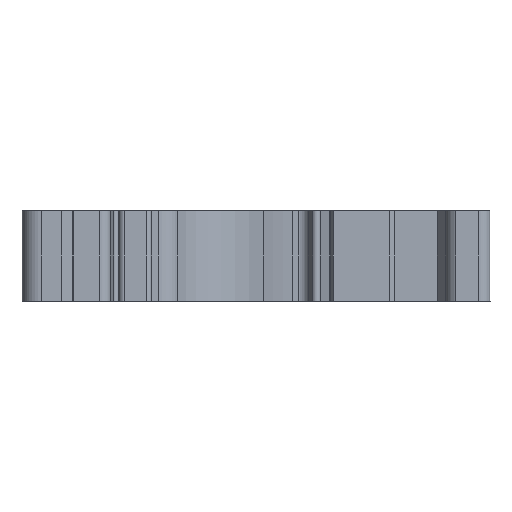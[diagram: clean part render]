
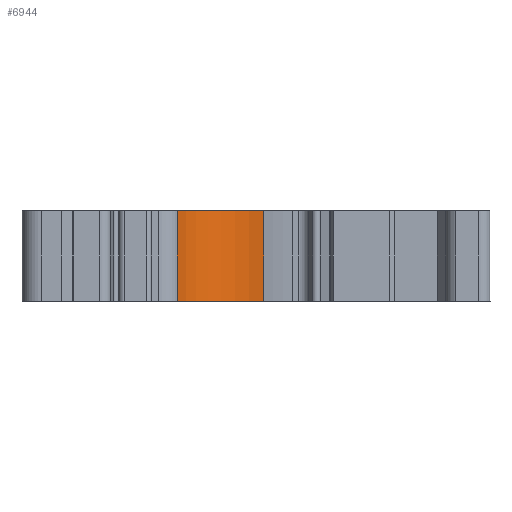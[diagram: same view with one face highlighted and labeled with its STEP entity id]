
A CAD part, front view. The second image highlights one B-rep face of the part: STEP entity #6944.
In plain terms, the highlighted cylindrical face has radius 7.697 mm (diameter 15.393 mm), a partial arc.
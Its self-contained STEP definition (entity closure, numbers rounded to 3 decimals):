
#601=CARTESIAN_POINT('',(-0.625,-24.347,-4.1));
#602=DIRECTION('',(0.,0.,-1.));
#603=DIRECTION('',(-0.851,0.526,0.));
#604=AXIS2_PLACEMENT_3D('',#601,#602,#603);
#1166=CARTESIAN_POINT('',(-0.625,-24.347,4.1));
#1167=DIRECTION('',(0.,0.,1.));
#1168=DIRECTION('',(0.174,0.985,0.));
#1169=AXIS2_PLACEMENT_3D('',#1166,#1167,#1168);
#2565=DIRECTION('',(0.,0.,1.));
#2566=VECTOR('',#2565,8.2);
#2567=CARTESIAN_POINT('',(-7.172,-20.301,-4.1));
#2568=LINE('',#2567,#2566);
#2569=DIRECTION('',(0.,0.,1.));
#2570=VECTOR('',#2569,8.2);
#2571=CARTESIAN_POINT('',(0.713,-16.767,-4.1));
#2572=LINE('',#2571,#2570);
#3040=CARTESIAN_POINT('',(-7.172,-20.301,-4.1));
#3041=VERTEX_POINT('',#3040);
#3042=CARTESIAN_POINT('',(0.713,-16.767,-4.1));
#3043=VERTEX_POINT('',#3042);
#3336=CARTESIAN_POINT('',(0.713,-16.767,4.1));
#3337=VERTEX_POINT('',#3336);
#3338=CARTESIAN_POINT('',(-7.172,-20.301,4.1));
#3339=VERTEX_POINT('',#3338);
#6932=CARTESIAN_POINT('',(-0.625,-24.347,-4.1));
#6933=DIRECTION('',(0.,0.,1.));
#6934=DIRECTION('',(1.,0.,0.));
#6935=AXIS2_PLACEMENT_3D('',#6932,#6933,#6934);
#6936=CYLINDRICAL_SURFACE('',#6935,7.697);
#6937=ORIENTED_EDGE('',*,*,#3890,.F.);
#6938=ORIENTED_EDGE('',*,*,#6927,.T.);
#6939=ORIENTED_EDGE('',*,*,#4236,.F.);
#6941=ORIENTED_EDGE('',*,*,#6940,.F.);
#6942=EDGE_LOOP('',(#6937,#6938,#6939,#6941));
#6943=FACE_OUTER_BOUND('',#6942,.F.);
#6944=ADVANCED_FACE('',(#6943),#6936,.F.);
#605=CIRCLE('',#604,7.697);
#1170=CIRCLE('',#1169,7.697);
#3890=EDGE_CURVE('',#3041,#3043,#605,.T.);
#4236=EDGE_CURVE('',#3337,#3339,#1170,.T.);
#6927=EDGE_CURVE('',#3041,#3339,#2568,.T.);
#6940=EDGE_CURVE('',#3043,#3337,#2572,.T.);
